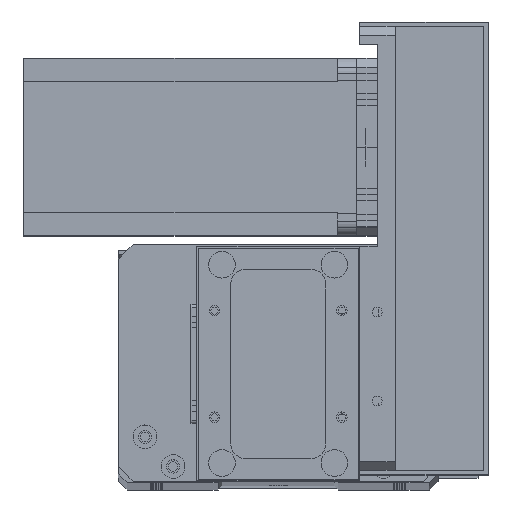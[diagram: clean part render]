
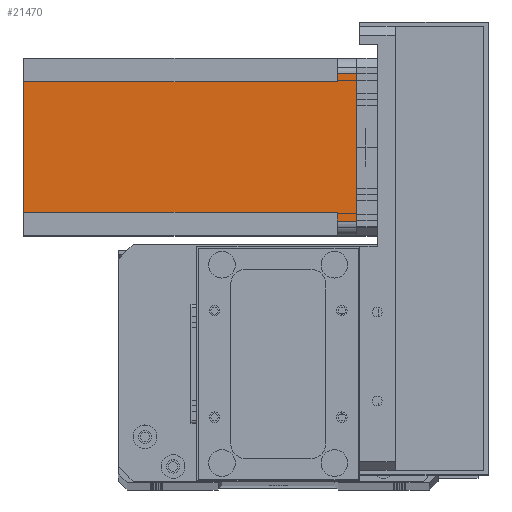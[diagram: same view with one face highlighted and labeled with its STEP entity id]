
A CAD part, top view. The second image highlights one B-rep face of the part: STEP entity #21470.
In plain terms, the highlighted planar face has unit normal (0, 0, 1) as drawn and (0, 1, 0) by its records, which use the part's own axes.
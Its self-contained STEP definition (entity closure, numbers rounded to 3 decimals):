
#319 = VECTOR ( 'NONE', #21996, 1000. ) ;
#1554 = ORIENTED_EDGE ( 'NONE', *, *, #15844, .T. ) ;
#1722 = LINE ( 'NONE', #15049, #18821 ) ;
#1934 = ORIENTED_EDGE ( 'NONE', *, *, #9563, .F. ) ;
#2108 = DIRECTION ( 'NONE',  ( 1., 0., 0. ) ) ;
#3962 = CARTESIAN_POINT ( 'NONE',  ( 0., 60., 0. ) ) ;
#4654 = LINE ( 'NONE', #7486, #29726 ) ;
#5079 = VECTOR ( 'NONE', #26644, 1000. ) ;
#5082 = ORIENTED_EDGE ( 'NONE', *, *, #30053, .T. ) ;
#5519 = CARTESIAN_POINT ( 'NONE',  ( 8., 60., -112.5 ) ) ;
#5563 = VECTOR ( 'NONE', #11193, 1000. ) ;
#6165 = LINE ( 'NONE', #14377, #25576 ) ;
#6910 = ORIENTED_EDGE ( 'NONE', *, *, #27815, .T. ) ;
#7127 = ORIENTED_EDGE ( 'NONE', *, *, #18389, .F. ) ;
#7226 = CARTESIAN_POINT ( 'NONE',  ( 55., 60., -6.5 ) ) ;
#7486 = CARTESIAN_POINT ( 'NONE',  ( 5., 60., -112.5 ) ) ;
#8097 = EDGE_CURVE ( 'NONE', #13829, #30636, #12804, .T. ) ;
#8412 = AXIS2_PLACEMENT_3D ( 'NONE', #11085, #25759, #11195 ) ;
#9563 = EDGE_CURVE ( 'NONE', #22357, #29484, #13461, .T. ) ;
#10408 = DIRECTION ( 'NONE',  ( 0., 0., -1. ) ) ;
#11085 = CARTESIAN_POINT ( 'NONE',  ( 0., 60., -112.5 ) ) ;
#11193 = DIRECTION ( 'NONE',  ( -1., 0., 0. ) ) ;
#11195 = DIRECTION ( 'NONE',  ( 0., 0., 1. ) ) ;
#12076 = CARTESIAN_POINT ( 'NONE',  ( 0., 60., -112.5 ) ) ;
#12632 = DIRECTION ( 'NONE',  ( -1., 0., 0. ) ) ;
#12804 = LINE ( 'NONE', #3962, #5563 ) ;
#13278 = LINE ( 'NONE', #19563, #319 ) ;
#13461 = LINE ( 'NONE', #31218, #30547 ) ;
#13795 = CARTESIAN_POINT ( 'NONE',  ( 52., 60., -112.5 ) ) ;
#13829 = VERTEX_POINT ( 'NONE', #21526 ) ;
#13889 = EDGE_CURVE ( 'NONE', #31111, #28103, #30934, .T. ) ;
#14377 = CARTESIAN_POINT ( 'NONE',  ( 55., 60., -112.5 ) ) ;
#15049 = CARTESIAN_POINT ( 'NONE',  ( 8., 60., -6.5 ) ) ;
#15844 = EDGE_CURVE ( 'NONE', #19790, #30636, #4654, .T. ) ;
#16122 = CARTESIAN_POINT ( 'NONE',  ( 8., 60., -112.5 ) ) ;
#17709 = CARTESIAN_POINT ( 'NONE',  ( 52., 60., -6.5 ) ) ;
#17737 = EDGE_CURVE ( 'NONE', #31111, #22357, #13278, .T. ) ;
#18389 = EDGE_CURVE ( 'NONE', #20454, #28103, #19382, .T. ) ;
#18398 = PLANE ( 'NONE',  #8412 ) ;
#18821 = VECTOR ( 'NONE', #12632, 1000. ) ;
#19382 = LINE ( 'NONE', #5519, #21127 ) ;
#19464 = ORIENTED_EDGE ( 'NONE', *, *, #13889, .T. ) ;
#19563 = CARTESIAN_POINT ( 'NONE',  ( 52., 60., -112.5 ) ) ;
#19573 = DIRECTION ( 'NONE',  ( 0., 0., 1. ) ) ;
#19790 = VERTEX_POINT ( 'NONE', #28389 ) ;
#20454 = VERTEX_POINT ( 'NONE', #23786 ) ;
#20975 = ORIENTED_EDGE ( 'NONE', *, *, #17737, .F. ) ;
#21127 = VECTOR ( 'NONE', #10408, 1000. ) ;
#21470 = ADVANCED_FACE ( 'NONE', ( #26489 ), #18398, .T. ) ;
#21526 = CARTESIAN_POINT ( 'NONE',  ( 55., 60., 0. ) ) ;
#21996 = DIRECTION ( 'NONE',  ( 0., 0., 1. ) ) ;
#22276 = ORIENTED_EDGE ( 'NONE', *, *, #8097, .F. ) ;
#22357 = VERTEX_POINT ( 'NONE', #17709 ) ;
#23786 = CARTESIAN_POINT ( 'NONE',  ( 8., 60., -6.5 ) ) ;
#25576 = VECTOR ( 'NONE', #31359, 1000. ) ;
#25759 = DIRECTION ( 'NONE',  ( 0., 1., 0. ) ) ;
#26489 = FACE_OUTER_BOUND ( 'NONE', #30716, .T. ) ;
#26644 = DIRECTION ( 'NONE',  ( -1., 0., 0. ) ) ;
#27815 = EDGE_CURVE ( 'NONE', #20454, #19790, #1722, .T. ) ;
#28103 = VERTEX_POINT ( 'NONE', #16122 ) ;
#28389 = CARTESIAN_POINT ( 'NONE',  ( 5., 60., -6.5 ) ) ;
#28709 = CARTESIAN_POINT ( 'NONE',  ( 5., 60., 0. ) ) ;
#29484 = VERTEX_POINT ( 'NONE', #7226 ) ;
#29726 = VECTOR ( 'NONE', #19573, 1000. ) ;
#30053 = EDGE_CURVE ( 'NONE', #13829, #29484, #6165, .T. ) ;
#30547 = VECTOR ( 'NONE', #2108, 1000. ) ;
#30636 = VERTEX_POINT ( 'NONE', #28709 ) ;
#30716 = EDGE_LOOP ( 'NONE', ( #22276, #5082, #1934, #20975, #19464, #7127, #6910, #1554 ) ) ;
#30934 = LINE ( 'NONE', #12076, #5079 ) ;
#31111 = VERTEX_POINT ( 'NONE', #13795 ) ;
#31218 = CARTESIAN_POINT ( 'NONE',  ( 52., 60., -6.5 ) ) ;
#31359 = DIRECTION ( 'NONE',  ( 0., 0., -1. ) ) ;
